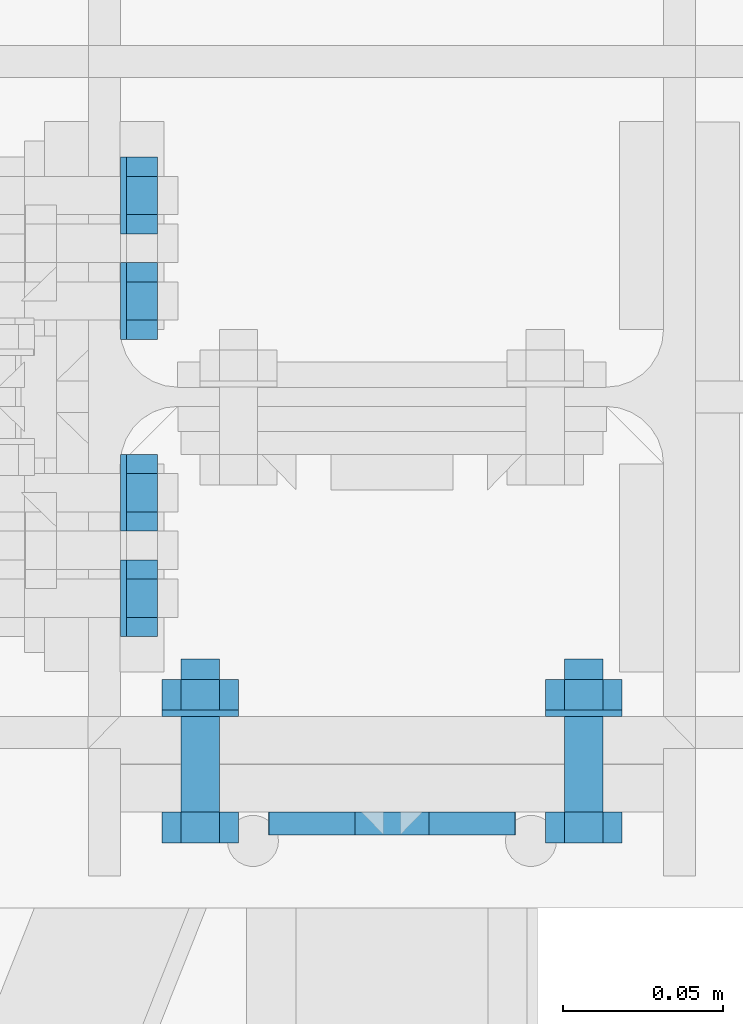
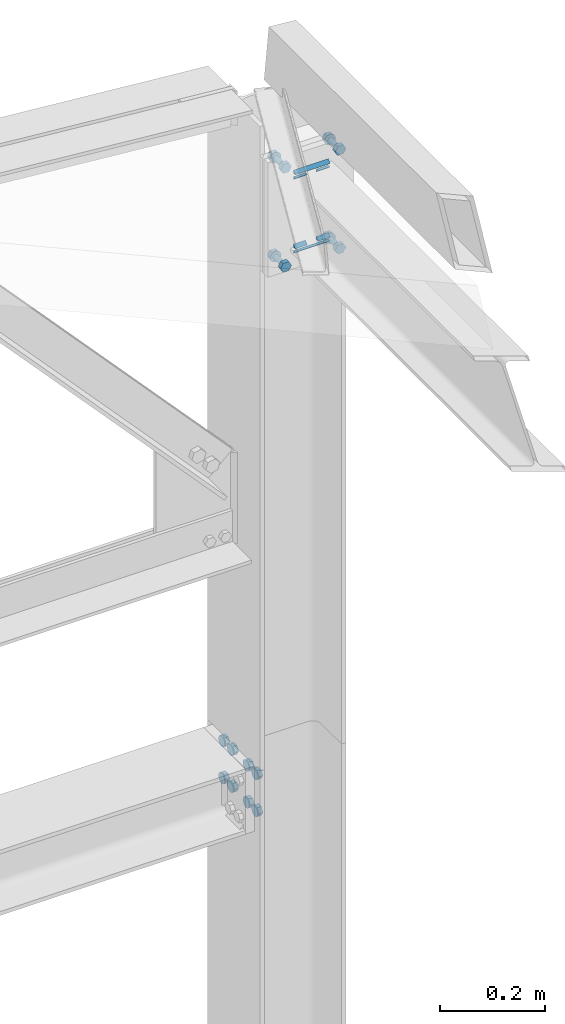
# One storey, part 228 of 251: 32 mechanical fasteners, 12 fasteners.
"""IFC4 building model written with IfcOpenShell, lengths in metres."""

import ifcopenshell
import ifcopenshell.guid

model = None  # the IFC model being written
_history = None  # IfcOwnerHistory: only IFC2X3 demands one
_inside = {}  # id of a spatial element -> (the spatial element, [elements in it])
_under = {}  # id of a project, library or spatial element -> (it, [spatial elements below it])
_declared = {}  # id of a project -> (the project, [libraries it declares])
_typed = {}  # id of a type object -> (the type object, [elements of that type])
_made_of = {}  # id of a material, layer set ... -> (it, [elements and type objects made of it])


def new_model(schema):
    """Start an empty IFC model of exactly this schema.

    Asked for "IFC4X3", IfcOpenShell would pick the latest addendum, in which some entities
    have other attributes; the version numbers below select the first issue.
    IFC2X3 requires an IfcOwnerHistory on every rooted entity: one is made here for all.
    """
    global model, _history
    if schema == "IFC4X3":
        model = ifcopenshell.file(schema_version=(4, 3, 0, 0))
    else:
        model = ifcopenshell.file(schema=schema)
    _inside.clear()
    _under.clear()
    _declared.clear()
    _typed.clear()
    _made_of.clear()
    _history = None
    if model.schema == "IFC2X3":
        org = make("IfcOrganization", Name="unknown")
        user = make(
            "IfcPersonAndOrganization",
            ThePerson=make("IfcPerson", FamilyName="unknown"),
            TheOrganization=org,
        )
        app = make(
            "IfcApplication",
            ApplicationDeveloper=org,
            Version="unknown",
            ApplicationFullName="unknown",
            ApplicationIdentifier="unknown",
        )
        _history = make(
            "IfcOwnerHistory",
            OwningUser=user,
            OwningApplication=app,
            ChangeAction="ADDED",
            CreationDate=0,
        )
    return model


def make(cls, **values):
    """One entity of the class cls with the attributes given. An attribute that is None is left unset."""
    return model.create_entity(
        cls, **{name: value for name, value in values.items() if value is not None}
    )


def rooted(cls, **values):
    """An entity with a GlobalId (a new one), such as an element, a storey or a relation."""
    return make(cls, GlobalId=ifcopenshell.guid.new(), OwnerHistory=_history, **values)


def si_unit(unit_type, name, prefix=None):
    """IfcSIUnit, for example si_unit("LENGTHUNIT", "METRE", prefix="MILLI")."""
    return make("IfcSIUnit", UnitType=unit_type, Prefix=prefix, Name=name)


def assignment(units):
    """IfcUnitAssignment: the units of a project."""
    return None if units is None else make("IfcUnitAssignment", Units=units)


def point(xyz):
    """IfcCartesianPoint."""
    return None if xyz is None else make("IfcCartesianPoint", Coordinates=xyz)


def direction(xyz):
    """IfcDirection."""
    return None if xyz is None else make("IfcDirection", DirectionRatios=xyz)


def frame(location, z_axis=None, x_axis=None):
    """IfcAxis2Placement3D, a coordinate frame: its origin and axes. An axis left out is left unset."""
    return make(
        "IfcAxis2Placement3D",
        Location=point(location),
        Axis=direction(z_axis),
        RefDirection=direction(x_axis),
    )


def origin_with_axes():
    """The frame at (0, 0, 0) with the z axis (0, 0, 1) and the x axis (1, 0, 0) written out."""
    return frame((0.0, 0.0, 0.0), z_axis=(0.0, 0.0, 1.0), x_axis=(1.0, 0.0, 0.0))


def place(relative_to, where):
    """IfcLocalPlacement: puts the frame where relative to a parent placement (None: the world)."""
    return make(
        "IfcLocalPlacement", PlacementRelTo=relative_to, RelativePlacement=where
    )


def context(
    kind, dimensions, precision=None, world=None, true_north=None, identifier=None
):
    """IfcGeometricRepresentationContext, for example the 3D "Model" context."""
    return make(
        "IfcGeometricRepresentationContext",
        ContextIdentifier=identifier,
        ContextType=kind,
        CoordinateSpaceDimension=dimensions,
        Precision=precision,
        WorldCoordinateSystem=world,
        TrueNorth=true_north,
    )


def project(units=None, contexts=None):
    """IfcProject with its units and contexts."""
    return rooted(
        "IfcProject",
        Name="project",
        RepresentationContexts=contexts,
        UnitsInContext=assignment(units),
    )


def spatial(cls, under=None, at=None, **own):
    """A site, building, storey or space (cls), placed at a placement, below another one or the project."""
    s = rooted(cls, ObjectPlacement=at, **own)
    if under is not None:
        _under.setdefault(under.id(), (under, []))[1].append(s)
    return s


def polyline(points):
    """IfcPolyline through the points."""
    return make("IfcPolyline", Points=[point(p) for p in points])


def outline(outer, holes=None, kind="AREA"):
    """IfcArbitraryClosedProfileDef: a profile drawn as a closed curve; with holes, ...WithVoids."""
    if holes is None:
        return make("IfcArbitraryClosedProfileDef", ProfileType=kind, OuterCurve=outer)
    return make(
        "IfcArbitraryProfileDefWithVoids",
        ProfileType=kind,
        OuterCurve=outer,
        InnerCurves=holes,
    )


def extrude(swept, where, along, depth):
    """IfcExtrudedAreaSolid: the profile swept, set in the frame where, extruded along a direction by depth."""
    return make(
        "IfcExtrudedAreaSolid",
        SweptArea=swept,
        Position=where,
        ExtrudedDirection=direction(along),
        Depth=depth,
    )


def shape(context_of_items, identifier, shape_type, items):
    """IfcShapeRepresentation: the items that make up one representation, for example the "Body"."""
    return make(
        "IfcShapeRepresentation",
        ContextOfItems=context_of_items,
        RepresentationIdentifier=identifier,
        RepresentationType=shape_type,
        Items=items,
    )


def made_of(thing, what):
    """Note that an element or type object is made of a material, layer set ...; save() writes the relation."""
    if what is not None:
        _made_of.setdefault(what.id(), (what, []))[1].append(thing)
    return thing


def type_object(cls, material=None, **own):
    """A type object (cls), such as IfcWallType, which elements share."""
    return made_of(rooted(cls, **own), material)


def element(
    cls,
    number,
    at=None,
    inside=None,
    cuts=None,
    type_object=None,
    material=None,
    context=None,
    identifier="Body",
    shape_type=None,
    held_by="IfcProductDefinitionShape",
    body=None,
    shapes=None,
    **own,
):
    """One element of the class cls, such as IfcWall. Its Tag is "e" and its number.

    at: its placement. inside: the storey or other place that contains it. cuts: it is an
    opening in that element (IfcRelVoidsElement). A single representation is given by context,
    identifier, shape_type and body (its items); several are given by shapes. held_by: the class
    of the entity that holds the representations. save() writes the other relations.
    """
    e = rooted(cls, Tag="e%d" % number, ObjectPlacement=at, **own)
    if body is not None:
        shapes = [shape(context, identifier, shape_type, body)]
    if shapes is not None:
        e.Representation = make(held_by, Representations=shapes)
    if inside is not None:
        _inside.setdefault(inside.id(), (inside, []))[1].append(e)
    if cuts is not None:
        rooted(
            "IfcRelVoidsElement", RelatingBuildingElement=cuts, RelatedOpeningElement=e
        )
    if type_object is not None:
        _typed.setdefault(type_object.id(), (type_object, []))[1].append(e)
    return made_of(e, material)


def aggregate(whole, parts):
    """IfcRelAggregates: a whole, such as a stair, and the parts it consists of."""
    return rooted("IfcRelAggregates", RelatingObject=whole, RelatedObjects=parts)


def save(model, path):
    """Write the relations noted so far, then the file.

    IfcRelAggregates (storeys below a building ...), IfcRelContainedInSpatialStructure (elements
    in a storey), IfcRelDefinesByType, IfcRelAssociatesMaterial and IfcRelDeclares: one each for
    every whole, place, type object, material and project.
    """
    for whole, parts in _under.values():
        aggregate(whole, parts)
    for where, things in _inside.values():
        rooted(
            "IfcRelContainedInSpatialStructure",
            RelatedElements=things,
            RelatingStructure=where,
        )
    for kind, things in _typed.values():
        rooted("IfcRelDefinesByType", RelatedObjects=things, RelatingType=kind)
    for what, things in _made_of.values():
        rooted("IfcRelAssociatesMaterial", RelatedObjects=things, RelatingMaterial=what)
    for by, libraries in _declared.values():
        rooted("IfcRelDeclares", RelatingContext=by, RelatedDefinitions=libraries)
    model.write(path)


model = new_model("IFC4")

# Units and contexts
model_context = context("Model", 3, precision=1e-05, world=origin_with_axes())
ifc_project = project(units=[si_unit("LENGTHUNIT", "METRE"), si_unit("AREAUNIT", "SQUARE_METRE"), si_unit("VOLUMEUNIT", "CUBIC_METRE"), si_unit("MASSUNIT", "GRAM", prefix="KILO"), si_unit("TIMEUNIT", "SECOND"), si_unit("PLANEANGLEUNIT", "RADIAN"), si_unit("SOLIDANGLEUNIT", "STERADIAN"), si_unit("THERMODYNAMICTEMPERATUREUNIT", "DEGREE_CELSIUS")], contexts=[model_context])

# Site, building, storey
placement_1 = place(None, origin_with_axes())
site = spatial("IfcSite", under=ifc_project, at=placement_1, Name="Italia", CompositionType="ELEMENT")
building = spatial("IfcBuilding", under=site, at=placement_1, Name="Deposito", CompositionType="ELEMENT")
storey = spatial("IfcBuildingStorey", under=building, at=placement_1, Name="Storey 0", CompositionType="ELEMENT", Elevation=0.0)

# Mechanical fasteners
mechanical_fastener_type_1 = type_object("IfcMechanicalFastenerType", Name="Collegamenti -051_7075 -053_7076", PredefinedType="BOLT")
placement_2 = place(placement_1, origin_with_axes())
mechanical_fastener_1_placement = place(placement_2, origin_with_axes())
element("IfcMechanicalFastener", 1, at=mechanical_fastener_1_placement, inside=storey, type_object=mechanical_fastener_type_1, Name="Collegamenti -051_7075 -053_7076", NominalDiameter=0.0119992, context=model_context, shape_type="SweptSolid", body=[
    extrude(outline(polyline([(0.0, 0.0), (-0.012001, 0.0), (-0.0180016, 0.0103922), (-0.012001, 0.0207849), (0.0, 0.0207849), (0.00599861, 0.0103922), (0.0, 0.0)])), frame((19.9266, 20.057, 4.37061), z_axis=(-1.0, 0.0, 0.0), x_axis=(0.0, -1.0, 0.0)), (0.0, 0.0, 1.0), 0.00959969),
])
mechanical_fastener_type_2 = type_object("IfcMechanicalFastenerType", Name="Collegamenti -051_7075 -053_7076", PredefinedType="BOLT")
mechanical_fastener_2_placement = place(placement_2, origin_with_axes())
element("IfcMechanicalFastener", 2, at=mechanical_fastener_2_placement, inside=storey, type_object=mechanical_fastener_type_2, Name="Collegamenti -051_7075 -053_7076", NominalDiameter=0.024, context=model_context, shape_type="SweptSolid", body=[
    extrude(outline(polyline([(0.0, 0.0), (-0.000408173, -0.00310564), (-0.00160599, -0.00600004), (-0.00351334, -0.00848532), (-0.00599861, -0.0103922), (-0.00889397, -0.011591), (-0.0119991, -0.0120001), (-0.0151043, -0.011591), (-0.0179996, -0.0103922), (-0.0204849, -0.00848532), (-0.0223923, -0.00600004), (-0.0235901, -0.00310564), (-0.0239983, 0.0), (-0.0235901, 0.00310564), (-0.0223923, 0.00600004), (-0.0204849, 0.00848532), (-0.0179996, 0.0103922), (-0.0151043, 0.011591), (-0.0119991, 0.0120001), (-0.00889397, 0.011591), (-0.00599861, 0.0103922), (-0.00351334, 0.00848532), (-0.00160599, 0.00600004), (-0.000408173, 0.00310564), (0.0, 0.0)])), frame((19.917, 20.051, 4.381), z_axis=(-1.0, 0.0, 0.0), x_axis=(0.0, -1.0, 0.0)), (0.0, 0.0, 1.0), 0.0019989),
])
mechanical_fastener_type_3 = type_object("IfcMechanicalFastenerType", Name="Collegamenti -051_7075 -053_7076", PredefinedType="BOLT")
mechanical_fastener_3_placement = place(placement_2, origin_with_axes())
element("IfcMechanicalFastener", 3, at=mechanical_fastener_3_placement, inside=storey, type_object=mechanical_fastener_type_3, Name="Collegamenti -051_7075 -053_7076", NominalDiameter=0.0119991, context=model_context, shape_type="SweptSolid", body=[
    extrude(outline(polyline([(0.0, 0.0), (-0.0119991, 0.0), (-0.0179996, 0.0103922), (-0.0119991, 0.0207849), (0.0, 0.0207849), (0.00600052, 0.0103922), (0.0, 0.0)])), frame((19.9266, 20.024, 4.37061), z_axis=(-1.0, 0.0, 0.0), x_axis=(0.0, -1.0, 0.0)), (0.0, 0.0, 1.0), 0.00959969),
])
mechanical_fastener_type_4 = type_object("IfcMechanicalFastenerType", Name="Collegamenti -051_7075 -053_7076", PredefinedType="BOLT")
mechanical_fastener_4_placement = place(placement_2, origin_with_axes())
element("IfcMechanicalFastener", 4, at=mechanical_fastener_4_placement, inside=storey, type_object=mechanical_fastener_type_4, Name="Collegamenti -051_7075 -053_7076", NominalDiameter=0.024, context=model_context, shape_type="SweptSolid", body=[
    extrude(outline(polyline([(0.0, 0.0), (-0.000408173, -0.00310564), (-0.00160599, -0.00600004), (-0.00351334, -0.00848532), (-0.00599861, -0.0103922), (-0.00889397, -0.011591), (-0.0119991, -0.0120001), (-0.0151043, -0.011591), (-0.0179996, -0.0103922), (-0.0204849, -0.00848532), (-0.0223923, -0.00600004), (-0.0235901, -0.00310564), (-0.0239983, 0.0), (-0.0235901, 0.00310564), (-0.0223923, 0.00600004), (-0.0204849, 0.00848532), (-0.0179996, 0.0103922), (-0.0151043, 0.011591), (-0.0119991, 0.0120001), (-0.00889397, 0.011591), (-0.00599861, 0.0103922), (-0.00351334, 0.00848532), (-0.00160599, 0.00600004), (-0.000408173, 0.00310564), (0.0, 0.0)])), frame((19.917, 20.018, 4.381), z_axis=(-1.0, 0.0, 0.0), x_axis=(0.0, -1.0, 0.0)), (0.0, 0.0, 1.0), 0.0019989),
])
mechanical_fastener_type_5 = type_object("IfcMechanicalFastenerType", Name="Collegamenti -051_7075 -053_7076", PredefinedType="BOLT")
mechanical_fastener_5_placement = place(placement_2, origin_with_axes())
element("IfcMechanicalFastener", 5, at=mechanical_fastener_5_placement, inside=storey, type_object=mechanical_fastener_type_5, Name="Collegamenti -051_7075 -053_7076", NominalDiameter=0.0119991, context=model_context, shape_type="SweptSolid", body=[
    extrude(outline(polyline([(0.0, 0.0), (-0.0119991, 0.0), (-0.0179996, 0.0103922), (-0.0119991, 0.0207849), (0.0, 0.0207849), (0.00600052, 0.0103922), (0.0, 0.0)])), frame((19.9266, 19.964, 4.37061), z_axis=(-1.0, 0.0, 0.0), x_axis=(0.0, -1.0, 0.0)), (0.0, 0.0, 1.0), 0.00959969),
])
mechanical_fastener_type_6 = type_object("IfcMechanicalFastenerType", Name="Collegamenti -051_7075 -053_7076", PredefinedType="BOLT")
mechanical_fastener_6_placement = place(placement_2, origin_with_axes())
element("IfcMechanicalFastener", 6, at=mechanical_fastener_6_placement, inside=storey, type_object=mechanical_fastener_type_6, Name="Collegamenti -051_7075 -053_7076", NominalDiameter=0.024, context=model_context, shape_type="SweptSolid", body=[
    extrude(outline(polyline([(0.0, 0.0), (-0.000408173, -0.00310564), (-0.00160599, -0.00600004), (-0.00351334, -0.00848532), (-0.00599861, -0.0103922), (-0.00889397, -0.011591), (-0.0119991, -0.0120001), (-0.0151043, -0.011591), (-0.0179996, -0.0103922), (-0.0204849, -0.00848532), (-0.0223923, -0.00600004), (-0.0235901, -0.00310564), (-0.0239983, 0.0), (-0.0235901, 0.00310564), (-0.0223923, 0.00600004), (-0.0204849, 0.00848532), (-0.0179996, 0.0103922), (-0.0151043, 0.011591), (-0.0119991, 0.0120001), (-0.00889397, 0.011591), (-0.00599861, 0.0103922), (-0.00351334, 0.00848532), (-0.00160599, 0.00600004), (-0.000408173, 0.00310564), (0.0, 0.0)])), frame((19.917, 19.958, 4.381), z_axis=(-1.0, 0.0, 0.0), x_axis=(0.0, -1.0, 0.0)), (0.0, 0.0, 1.0), 0.0019989),
])
mechanical_fastener_type_7 = type_object("IfcMechanicalFastenerType", Name="Collegamenti -051_7075 -053_7076", PredefinedType="BOLT")
mechanical_fastener_7_placement = place(placement_2, origin_with_axes())
element("IfcMechanicalFastener", 7, at=mechanical_fastener_7_placement, inside=storey, type_object=mechanical_fastener_type_7, Name="Collegamenti -051_7075 -053_7076", NominalDiameter=0.0119992, context=model_context, shape_type="SweptSolid", body=[
    extrude(outline(polyline([(0.0, 0.0), (-0.012001, 0.0), (-0.0179996, 0.0103922), (-0.012001, 0.0207849), (0.0, 0.0207849), (0.00600052, 0.0103922), (0.0, 0.0)])), frame((19.9266, 19.931, 4.37061), z_axis=(-1.0, 0.0, 0.0), x_axis=(0.0, -1.0, 0.0)), (0.0, 0.0, 1.0), 0.00959969),
])
mechanical_fastener_type_8 = type_object("IfcMechanicalFastenerType", Name="Collegamenti -051_7075 -053_7076", PredefinedType="BOLT")
mechanical_fastener_8_placement = place(placement_2, origin_with_axes())
element("IfcMechanicalFastener", 8, at=mechanical_fastener_8_placement, inside=storey, type_object=mechanical_fastener_type_8, Name="Collegamenti -051_7075 -053_7076", NominalDiameter=0.024, context=model_context, shape_type="SweptSolid", body=[
    extrude(outline(polyline([(0.0, 0.0), (-0.000408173, -0.00310564), (-0.00160599, -0.00600004), (-0.00351334, -0.00848532), (-0.00599861, -0.0103922), (-0.00889397, -0.011591), (-0.0119991, -0.0120001), (-0.0151043, -0.011591), (-0.0179996, -0.0103922), (-0.0204849, -0.00848532), (-0.0223923, -0.00600004), (-0.0235901, -0.00310564), (-0.0239983, 0.0), (-0.0235901, 0.00310564), (-0.0223923, 0.00600004), (-0.0204849, 0.00848532), (-0.0179996, 0.0103922), (-0.0151043, 0.011591), (-0.0119991, 0.0120001), (-0.00889397, 0.011591), (-0.00599861, 0.0103922), (-0.00351334, 0.00848532), (-0.00160599, 0.00600004), (-0.000408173, 0.00310564), (0.0, 0.0)])), frame((19.917, 19.925, 4.381), z_axis=(-1.0, 0.0, 0.0), x_axis=(0.0, -1.0, 0.0)), (0.0, 0.0, 1.0), 0.0019989),
])
mechanical_fastener_type_9 = type_object("IfcMechanicalFastenerType", Name="Collegamenti -051_7075 -053_7076", PredefinedType="BOLT")
mechanical_fastener_9_placement = place(placement_2, origin_with_axes())
element("IfcMechanicalFastener", 9, at=mechanical_fastener_9_placement, inside=storey, type_object=mechanical_fastener_type_9, Name="Collegamenti -051_7075 -053_7076", NominalDiameter=0.0119992, context=model_context, shape_type="SweptSolid", body=[
    extrude(outline(polyline([(0.0, 0.0), (-0.012001, 0.0), (-0.0180016, 0.0103927), (-0.012001, 0.0207849), (0.0, 0.0207849), (0.00599861, 0.0103927), (0.0, 0.0)])), frame((19.9266, 20.057, 4.45661), z_axis=(-1.0, 0.0, 0.0), x_axis=(0.0, -1.0, 0.0)), (0.0, 0.0, 1.0), 0.00959969),
])
mechanical_fastener_type_10 = type_object("IfcMechanicalFastenerType", Name="Collegamenti -051_7075 -053_7076", PredefinedType="BOLT")
mechanical_fastener_10_placement = place(placement_2, origin_with_axes())
element("IfcMechanicalFastener", 10, at=mechanical_fastener_10_placement, inside=storey, type_object=mechanical_fastener_type_10, Name="Collegamenti -051_7075 -053_7076", NominalDiameter=0.024, context=model_context, shape_type="SweptSolid", body=[
    extrude(outline(polyline([(0.0, 0.0), (-0.000408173, -0.00310564), (-0.00160599, -0.00600004), (-0.00351334, -0.00848532), (-0.00599861, -0.0103922), (-0.00889397, -0.011591), (-0.0119991, -0.0120001), (-0.0151043, -0.011591), (-0.0179996, -0.0103922), (-0.0204849, -0.00848532), (-0.0223923, -0.00600004), (-0.0235901, -0.00310564), (-0.0239983, 0.0), (-0.0235901, 0.00310564), (-0.0223923, 0.00600004), (-0.0204849, 0.00848532), (-0.0179996, 0.0103922), (-0.0151043, 0.011591), (-0.0119991, 0.0120001), (-0.00889397, 0.011591), (-0.00599861, 0.0103922), (-0.00351334, 0.00848532), (-0.00160599, 0.00600004), (-0.000408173, 0.00310564), (0.0, 0.0)])), frame((19.917, 20.051, 4.467), z_axis=(-1.0, 0.0, 0.0), x_axis=(0.0, -1.0, 0.0)), (0.0, 0.0, 1.0), 0.0019989),
])
mechanical_fastener_type_11 = type_object("IfcMechanicalFastenerType", Name="Collegamenti -051_7075 -053_7076", PredefinedType="BOLT")
mechanical_fastener_11_placement = place(placement_2, origin_with_axes())
element("IfcMechanicalFastener", 11, at=mechanical_fastener_11_placement, inside=storey, type_object=mechanical_fastener_type_11, Name="Collegamenti -051_7075 -053_7076", NominalDiameter=0.0119991, context=model_context, shape_type="SweptSolid", body=[
    extrude(outline(polyline([(0.0, 0.0), (-0.0119991, 0.0), (-0.0179996, 0.0103927), (-0.0119991, 0.0207849), (0.0, 0.0207849), (0.00600052, 0.0103927), (0.0, 0.0)])), frame((19.9266, 20.024, 4.45661), z_axis=(-1.0, 0.0, 0.0), x_axis=(0.0, -1.0, 0.0)), (0.0, 0.0, 1.0), 0.00959969),
])
mechanical_fastener_type_12 = type_object("IfcMechanicalFastenerType", Name="Collegamenti -051_7075 -053_7076", PredefinedType="BOLT")
mechanical_fastener_12_placement = place(placement_2, origin_with_axes())
element("IfcMechanicalFastener", 12, at=mechanical_fastener_12_placement, inside=storey, type_object=mechanical_fastener_type_12, Name="Collegamenti -051_7075 -053_7076", NominalDiameter=0.024, context=model_context, shape_type="SweptSolid", body=[
    extrude(outline(polyline([(0.0, 0.0), (-0.000408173, -0.00310564), (-0.00160599, -0.00600004), (-0.00351334, -0.00848532), (-0.00599861, -0.0103922), (-0.00889397, -0.011591), (-0.0119991, -0.0120001), (-0.0151043, -0.011591), (-0.0179996, -0.0103922), (-0.0204849, -0.00848532), (-0.0223923, -0.00600004), (-0.0235901, -0.00310564), (-0.0239983, 0.0), (-0.0235901, 0.00310564), (-0.0223923, 0.00600004), (-0.0204849, 0.00848532), (-0.0179996, 0.0103922), (-0.0151043, 0.011591), (-0.0119991, 0.0120001), (-0.00889397, 0.011591), (-0.00599861, 0.0103922), (-0.00351334, 0.00848532), (-0.00160599, 0.00600004), (-0.000408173, 0.00310564), (0.0, 0.0)])), frame((19.917, 20.018, 4.467), z_axis=(-1.0, 0.0, 0.0), x_axis=(0.0, -1.0, 0.0)), (0.0, 0.0, 1.0), 0.0019989),
])
mechanical_fastener_type_13 = type_object("IfcMechanicalFastenerType", Name="Collegamenti -051_7075 -053_7076", PredefinedType="BOLT")
mechanical_fastener_13_placement = place(placement_2, origin_with_axes())
element("IfcMechanicalFastener", 13, at=mechanical_fastener_13_placement, inside=storey, type_object=mechanical_fastener_type_13, Name="Collegamenti -051_7075 -053_7076", NominalDiameter=0.0119991, context=model_context, shape_type="SweptSolid", body=[
    extrude(outline(polyline([(0.0, 0.0), (-0.0119991, 0.0), (-0.0179996, 0.0103927), (-0.0119991, 0.0207849), (0.0, 0.0207849), (0.00600052, 0.0103927), (0.0, 0.0)])), frame((19.9266, 19.964, 4.45661), z_axis=(-1.0, 0.0, 0.0), x_axis=(0.0, -1.0, 0.0)), (0.0, 0.0, 1.0), 0.00959969),
])
mechanical_fastener_type_14 = type_object("IfcMechanicalFastenerType", Name="Collegamenti -051_7075 -053_7076", PredefinedType="BOLT")
mechanical_fastener_14_placement = place(placement_2, origin_with_axes())
element("IfcMechanicalFastener", 14, at=mechanical_fastener_14_placement, inside=storey, type_object=mechanical_fastener_type_14, Name="Collegamenti -051_7075 -053_7076", NominalDiameter=0.024, context=model_context, shape_type="SweptSolid", body=[
    extrude(outline(polyline([(0.0, 0.0), (-0.000408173, -0.00310564), (-0.00160599, -0.00600004), (-0.00351334, -0.00848532), (-0.00599861, -0.0103922), (-0.00889397, -0.011591), (-0.0119991, -0.0120001), (-0.0151043, -0.011591), (-0.0179996, -0.0103922), (-0.0204849, -0.00848532), (-0.0223923, -0.00600004), (-0.0235901, -0.00310564), (-0.0239983, 0.0), (-0.0235901, 0.00310564), (-0.0223923, 0.00600004), (-0.0204849, 0.00848532), (-0.0179996, 0.0103922), (-0.0151043, 0.011591), (-0.0119991, 0.0120001), (-0.00889397, 0.011591), (-0.00599861, 0.0103922), (-0.00351334, 0.00848532), (-0.00160599, 0.00600004), (-0.000408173, 0.00310564), (0.0, 0.0)])), frame((19.917, 19.958, 4.467), z_axis=(-1.0, 0.0, 0.0), x_axis=(0.0, -1.0, 0.0)), (0.0, 0.0, 1.0), 0.0019989),
])
mechanical_fastener_type_15 = type_object("IfcMechanicalFastenerType", Name="Collegamenti -051_7075 -053_7076", PredefinedType="BOLT")
mechanical_fastener_15_placement = place(placement_2, origin_with_axes())
element("IfcMechanicalFastener", 15, at=mechanical_fastener_15_placement, inside=storey, type_object=mechanical_fastener_type_15, Name="Collegamenti -051_7075 -053_7076", NominalDiameter=0.0119992, context=model_context, shape_type="SweptSolid", body=[
    extrude(outline(polyline([(0.0, 0.0), (-0.012001, 0.0), (-0.0179996, 0.0103927), (-0.012001, 0.0207849), (0.0, 0.0207849), (0.00600052, 0.0103927), (0.0, 0.0)])), frame((19.9266, 19.931, 4.45661), z_axis=(-1.0, 0.0, 0.0), x_axis=(0.0, -1.0, 0.0)), (0.0, 0.0, 1.0), 0.00959969),
])
mechanical_fastener_type_16 = type_object("IfcMechanicalFastenerType", Name="Collegamenti -051_7075 -053_7076", PredefinedType="BOLT")
mechanical_fastener_16_placement = place(placement_2, origin_with_axes())
element("IfcMechanicalFastener", 16, at=mechanical_fastener_16_placement, inside=storey, type_object=mechanical_fastener_type_16, Name="Collegamenti -051_7075 -053_7076", NominalDiameter=0.024, context=model_context, shape_type="SweptSolid", body=[
    extrude(outline(polyline([(0.0, 0.0), (-0.000408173, -0.00310564), (-0.00160599, -0.00600004), (-0.00351334, -0.00848532), (-0.00599861, -0.0103922), (-0.00889397, -0.011591), (-0.0119991, -0.0120001), (-0.0151043, -0.011591), (-0.0179996, -0.0103922), (-0.0204849, -0.00848532), (-0.0223923, -0.00600004), (-0.0235901, -0.00310564), (-0.0239983, 0.0), (-0.0235901, 0.00310564), (-0.0223923, 0.00600004), (-0.0204849, 0.00848532), (-0.0179996, 0.0103922), (-0.0151043, 0.011591), (-0.0119991, 0.0120001), (-0.00889397, 0.011591), (-0.00599861, 0.0103922), (-0.00351334, 0.00848532), (-0.00160599, 0.00600004), (-0.000408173, 0.00310564), (0.0, 0.0)])), frame((19.917, 19.925, 4.467), z_axis=(-1.0, 0.0, 0.0), x_axis=(0.0, -1.0, 0.0)), (0.0, 0.0, 1.0), 0.0019989),
])

# Fasteners
fastener_type_1 = type_object("IfcFastenerType", Name="Collegamenti -064_-065 -065_-064 -065_-066 -066_-065 -066_-067 -067_-066 -067_-068 -068_-067", PredefinedType="WELD")
fastener_1_placement = place(placement_2, origin_with_axes())
element("IfcFastener", 17, at=fastener_1_placement, inside=storey, type_object=fastener_type_1, Name="Collegamenti -064_-065 -065_-064 -065_-066 -066_-065 -066_-067 -067_-066 -067_-068 -068_-067", context=model_context, shape_type="SweptSolid", body=[
    extrude(outline(polyline([(0.0, 0.0), (0.00717354, -0.00695801), (0.0, -0.00695801), (0.0, 0.0)])), frame((20.0385, 19.8701, 5.89691), z_axis=(-1.0, 0.0, 0.0), x_axis=(0.0, -1.0, 0.0)), (0.0, 0.0, 1.0), 0.0770988),
])
fastener_type_2 = type_object("IfcFastenerType", Name="Collegamenti -064_-065 -065_-064 -065_-066 -066_-065 -066_-067 -067_-066 -067_-068 -068_-067", PredefinedType="WELD")
fastener_2_placement = place(placement_2, origin_with_axes())
element("IfcFastener", 18, at=fastener_2_placement, inside=storey, type_object=fastener_type_2, Name="Collegamenti -064_-065 -065_-064 -065_-066 -066_-065 -066_-067 -067_-066 -067_-068 -068_-067", context=model_context, shape_type="SweptSolid", body=[
    extrude(outline(polyline([(0.0, 0.0), (-0.00717354, 0.00695801), (0.0, 0.00695801), (0.0, 0.0)])), frame((20.0116, 19.8701, 5.87509), z_axis=(1.0, 0.0, 0.0), x_axis=(0.0, 1.0, 0.0)), (0.0, 0.0, 1.0), 0.0269508),
])
fastener_type_3 = type_object("IfcFastenerType", Name="Collegamenti -064_-065 -065_-064 -065_-066 -066_-065 -066_-067 -067_-066 -067_-068 -068_-067", PredefinedType="WELD")
fastener_3_placement = place(placement_2, origin_with_axes())
element("IfcFastener", 19, at=fastener_3_placement, inside=storey, type_object=fastener_type_3, Name="Collegamenti -064_-065 -065_-064 -065_-066 -066_-065 -066_-067 -067_-066 -067_-068 -068_-067", context=model_context, shape_type="SweptSolid", body=[
    extrude(outline(polyline([(0.0, 0.0), (0.00717354, -0.00695801), (0.0, -0.00695801), (0.0, 0.0)])), frame((20.0385, 19.8701, 5.72491), z_axis=(-1.0, 0.0, 0.0), x_axis=(0.0, -1.0, 0.0)), (0.0, 0.0, 1.0), 0.0269508),
])
fastener_type_4 = type_object("IfcFastenerType", Name="Collegamenti -064_-065 -065_-064 -065_-066 -066_-065 -066_-067 -067_-066 -067_-068 -068_-067", PredefinedType="WELD")
fastener_4_placement = place(placement_2, origin_with_axes())
element("IfcFastener", 20, at=fastener_4_placement, inside=storey, type_object=fastener_type_4, Name="Collegamenti -064_-065 -065_-064 -065_-066 -066_-065 -066_-067 -067_-066 -067_-068 -068_-067", context=model_context, shape_type="SweptSolid", body=[
    extrude(outline(polyline([(0.0, 0.0), (-0.00717354, 0.00695801), (0.0, 0.00695801), (0.0, 0.0)])), frame((19.9615, 19.8701, 5.70309), z_axis=(1.0, 0.0, 0.0), x_axis=(0.0, 1.0, 0.0)), (0.0, 0.0, 1.0), 0.0770988),
])
fastener_type_5 = type_object("IfcFastenerType", Name="Collegamenti -064_-065 -065_-064 -065_-066 -066_-065 -066_-067 -067_-066 -067_-068 -068_-067", PredefinedType="WELD")
fastener_5_placement = place(placement_2, origin_with_axes())
element("IfcFastener", 21, at=fastener_5_placement, inside=storey, type_object=fastener_type_5, Name="Collegamenti -064_-065 -065_-064 -065_-066 -066_-065 -066_-067 -067_-066 -067_-068 -068_-067", context=model_context, shape_type="SweptSolid", body=[
    extrude(outline(polyline([(0.0, 0.0), (0.00717354, -0.00695801), (0.0, -0.00695801), (0.0, 0.0)])), frame((19.9884, 19.8701, 5.72491), z_axis=(-1.0, 0.0, 0.0), x_axis=(0.0, -1.0, 0.0)), (0.0, 0.0, 1.0), 0.0269508),
])
fastener_type_6 = type_object("IfcFastenerType", Name="Collegamenti -064_-065 -065_-064 -065_-066 -066_-065 -066_-067 -067_-066 -067_-068 -068_-067", PredefinedType="WELD")
fastener_6_placement = place(placement_2, origin_with_axes())
element("IfcFastener", 22, at=fastener_6_placement, inside=storey, type_object=fastener_type_6, Name="Collegamenti -064_-065 -065_-064 -065_-066 -066_-065 -066_-067 -067_-066 -067_-068 -068_-067", context=model_context, shape_type="SweptSolid", body=[
    extrude(outline(polyline([(0.0, 0.0), (-0.00717354, 0.00695801), (0.0, 0.00695801), (0.0, 0.0)])), frame((19.9615, 19.8701, 5.87509), z_axis=(1.0, 0.0, 0.0), x_axis=(0.0, 1.0, 0.0)), (0.0, 0.0, 1.0), 0.0269508),
])
fastener_type_7 = type_object("IfcFastenerType", Name="Collegamenti -064_-065 -065_-064 -065_-066 -066_-065 -066_-067 -067_-066 -067_-068 -068_-067", PredefinedType="WELD")
fastener_7_placement = place(placement_2, origin_with_axes())
element("IfcFastener", 23, at=fastener_7_placement, inside=storey, type_object=fastener_type_7, Name="Collegamenti -064_-065 -065_-064 -065_-066 -066_-065 -066_-067 -067_-066 -067_-068 -068_-067", context=model_context, shape_type="SweptSolid", body=[
    extrude(outline(polyline([(0.0, 0.0), (0.00717354, -0.00695801), (0.0, -0.00695801), (0.0, 0.0)])), frame((20.0385, 19.8701, 5.89691), z_axis=(-1.0, 0.0, 0.0), x_axis=(0.0, -1.0, 0.0)), (0.0, 0.0, 1.0), 0.0770988),
])
fastener_type_8 = type_object("IfcFastenerType", Name="Collegamenti -064_-065 -065_-064 -065_-066 -066_-065 -066_-067 -067_-066 -067_-068 -068_-067", PredefinedType="WELD")
fastener_8_placement = place(placement_2, origin_with_axes())
element("IfcFastener", 24, at=fastener_8_placement, inside=storey, type_object=fastener_type_8, Name="Collegamenti -064_-065 -065_-064 -065_-066 -066_-065 -066_-067 -067_-066 -067_-068 -068_-067", context=model_context, shape_type="SweptSolid", body=[
    extrude(outline(polyline([(0.0, 0.0), (-0.00717354, 0.00695801), (0.0, 0.00695801), (0.0, 0.0)])), frame((20.0116, 19.8701, 5.87509), z_axis=(1.0, 0.0, 0.0), x_axis=(0.0, 1.0, 0.0)), (0.0, 0.0, 1.0), 0.0269508),
])
fastener_type_9 = type_object("IfcFastenerType", Name="Collegamenti -064_-065 -065_-064 -065_-066 -066_-065 -066_-067 -067_-066 -067_-068 -068_-067", PredefinedType="WELD")
fastener_9_placement = place(placement_2, origin_with_axes())
element("IfcFastener", 25, at=fastener_9_placement, inside=storey, type_object=fastener_type_9, Name="Collegamenti -064_-065 -065_-064 -065_-066 -066_-065 -066_-067 -067_-066 -067_-068 -068_-067", context=model_context, shape_type="SweptSolid", body=[
    extrude(outline(polyline([(0.0, 0.0), (0.00717354, -0.00695801), (0.0, -0.00695801), (0.0, 0.0)])), frame((20.0385, 19.8701, 5.72491), z_axis=(-1.0, 0.0, 0.0), x_axis=(0.0, -1.0, 0.0)), (0.0, 0.0, 1.0), 0.0269508),
])
fastener_type_10 = type_object("IfcFastenerType", Name="Collegamenti -064_-065 -065_-064 -065_-066 -066_-065 -066_-067 -067_-066 -067_-068 -068_-067", PredefinedType="WELD")
fastener_10_placement = place(placement_2, origin_with_axes())
element("IfcFastener", 26, at=fastener_10_placement, inside=storey, type_object=fastener_type_10, Name="Collegamenti -064_-065 -065_-064 -065_-066 -066_-065 -066_-067 -067_-066 -067_-068 -068_-067", context=model_context, shape_type="SweptSolid", body=[
    extrude(outline(polyline([(0.0, 0.0), (-0.00717354, 0.00695801), (0.0, 0.00695801), (0.0, 0.0)])), frame((19.9615, 19.8701, 5.70309), z_axis=(1.0, 0.0, 0.0), x_axis=(0.0, 1.0, 0.0)), (0.0, 0.0, 1.0), 0.0770988),
])
fastener_type_11 = type_object("IfcFastenerType", Name="Collegamenti -064_-065 -065_-064 -065_-066 -066_-065 -066_-067 -067_-066 -067_-068 -068_-067", PredefinedType="WELD")
fastener_11_placement = place(placement_2, origin_with_axes())
element("IfcFastener", 27, at=fastener_11_placement, inside=storey, type_object=fastener_type_11, Name="Collegamenti -064_-065 -065_-064 -065_-066 -066_-065 -066_-067 -067_-066 -067_-068 -068_-067", context=model_context, shape_type="SweptSolid", body=[
    extrude(outline(polyline([(0.0, 0.0), (0.00717354, -0.00695801), (0.0, -0.00695801), (0.0, 0.0)])), frame((19.9884, 19.8701, 5.72491), z_axis=(-1.0, 0.0, 0.0), x_axis=(0.0, -1.0, 0.0)), (0.0, 0.0, 1.0), 0.0269508),
])
fastener_type_12 = type_object("IfcFastenerType", Name="Collegamenti -064_-065 -065_-064 -065_-066 -066_-065 -066_-067 -067_-066 -067_-068 -068_-067", PredefinedType="WELD")
fastener_12_placement = place(placement_2, origin_with_axes())
element("IfcFastener", 28, at=fastener_12_placement, inside=storey, type_object=fastener_type_12, Name="Collegamenti -064_-065 -065_-064 -065_-066 -066_-065 -066_-067 -067_-066 -067_-068 -068_-067", context=model_context, shape_type="SweptSolid", body=[
    extrude(outline(polyline([(0.0, 0.0), (-0.00717354, 0.00695801), (0.0, 0.00695801), (0.0, 0.0)])), frame((19.9615, 19.8701, 5.87509), z_axis=(1.0, 0.0, 0.0), x_axis=(0.0, 1.0, 0.0)), (0.0, 0.0, 1.0), 0.0269508),
])

# Mechanical fasteners
mechanical_fastener_type_17 = type_object("IfcMechanicalFastenerType", Name="Collegamenti -064_-065 -065_-064 -065_-066 -066_-065 -066_-067 -067_-066 -067_-068 -068_-067", PredefinedType="BOLT")
mechanical_fastener_17_placement = place(placement_2, origin_with_axes())
element("IfcMechanicalFastener", 29, at=mechanical_fastener_17_placement, inside=storey, type_object=mechanical_fastener_type_17, Name="Collegamenti -064_-065 -065_-064 -065_-066 -066_-065 -066_-067 -067_-066 -067_-068 -068_-067", NominalDiameter=0.0119991, context=model_context, shape_type="SweptSolid", body=[
    extrude(outline(polyline([(0.0, 0.0), (-0.0119991, 0.0), (-0.0179996, 0.0103927), (-0.0119991, 0.0207849), (0.0, 0.0207849), (0.00600052, 0.0103927), (0.0, 0.0)])), frame((19.946, 19.87, 5.67461), z_axis=(0.0, -1.0, 0.0), x_axis=(1.0, 0.0, 0.0)), (0.0, 0.0, 1.0), 0.00960159),
])
mechanical_fastener_type_18 = type_object("IfcMechanicalFastenerType", Name="Collegamenti -064_-065 -065_-064 -065_-066 -066_-065 -066_-067 -067_-066 -067_-068 -068_-067", PredefinedType="BOLT")
mechanical_fastener_18_placement = place(placement_2, origin_with_axes())
element("IfcMechanicalFastener", 30, at=mechanical_fastener_18_placement, inside=storey, type_object=mechanical_fastener_type_18, Name="Collegamenti -064_-065 -065_-064 -065_-066 -066_-065 -066_-067 -067_-066 -067_-068 -068_-067", NominalDiameter=0.012, context=model_context, shape_type="SweptSolid", body=[
    extrude(outline(polyline([(0.0, 0.0), (-0.000204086, -0.00155306), (-0.000804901, -0.00299978), (-0.00175858, -0.00424242), (-0.00300026, -0.00519609), (-0.00444794, -0.00579548), (-0.00600052, -0.00600004), (-0.0075531, -0.00579548), (-0.00900078, -0.00519609), (-0.0102425, -0.00424242), (-0.0111961, -0.00299978), (-0.011797, -0.00155306), (-0.012001, 0.0), (-0.011797, 0.00155306), (-0.0111961, 0.00299978), (-0.0102425, 0.00424242), (-0.00900078, 0.00519609), (-0.0075531, 0.00579548), (-0.00600052, 0.00600004), (-0.00444794, 0.00579548), (-0.00300026, 0.00519609), (-0.00175858, 0.00424242), (-0.000804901, 0.00299978), (-0.000204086, 0.00155306), (0.0, 0.0)])), frame((19.946, 19.918, 5.685), z_axis=(0.0, -1.0, 0.0), x_axis=(1.0, 0.0, 0.0)), (0.0, 0.0, 1.0), 0.0479984),
])
mechanical_fastener_type_19 = type_object("IfcMechanicalFastenerType", Name="Collegamenti -064_-065 -065_-064 -065_-066 -066_-065 -066_-067 -067_-066 -067_-068 -068_-067", PredefinedType="BOLT")
mechanical_fastener_19_placement = place(placement_2, origin_with_axes())
element("IfcMechanicalFastener", 31, at=mechanical_fastener_19_placement, inside=storey, type_object=mechanical_fastener_type_19, Name="Collegamenti -064_-065 -065_-064 -065_-066 -066_-065 -066_-067 -067_-066 -067_-068 -068_-067", NominalDiameter=0.0119991, context=model_context, shape_type="SweptSolid", body=[
    extrude(outline(polyline([(0.0, 0.0), (-0.0119991, 0.0), (-0.0179996, 0.0103927), (-0.0119991, 0.0207849), (0.0, 0.0207849), (0.00600052, 0.0103927), (0.0, 0.0)])), frame((19.946, 19.9116, 5.67461), z_axis=(0.0, -1.0, 0.0), x_axis=(1.0, 0.0, 0.0)), (0.0, 0.0, 1.0), 0.00959969),
])
mechanical_fastener_type_20 = type_object("IfcMechanicalFastenerType", Name="Collegamenti -064_-065 -065_-064 -065_-066 -066_-065 -066_-067 -067_-066 -067_-068 -068_-067", PredefinedType="BOLT")
mechanical_fastener_20_placement = place(placement_2, origin_with_axes())
element("IfcMechanicalFastener", 32, at=mechanical_fastener_20_placement, inside=storey, type_object=mechanical_fastener_type_20, Name="Collegamenti -064_-065 -065_-064 -065_-066 -066_-065 -066_-067 -067_-066 -067_-068 -068_-067", NominalDiameter=0.024, context=model_context, shape_type="SweptSolid", body=[
    extrude(outline(polyline([(0.0, 0.0), (-0.000408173, -0.00310564), (-0.00160599, -0.00600004), (-0.00351334, -0.00848532), (-0.00599861, -0.0103922), (-0.00889397, -0.011591), (-0.0119991, -0.0120001), (-0.0151043, -0.011591), (-0.0179996, -0.0103922), (-0.0204849, -0.00848532), (-0.0223923, -0.00600004), (-0.0235901, -0.00310564), (-0.0239983, 0.0), (-0.0235901, 0.00310564), (-0.0223923, 0.00600004), (-0.0204849, 0.00848532), (-0.0179996, 0.0103922), (-0.0151043, 0.011591), (-0.0119991, 0.0120001), (-0.00889397, 0.011591), (-0.00599861, 0.0103922), (-0.00351334, 0.00848532), (-0.00160599, 0.00600004), (-0.000408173, 0.00310564), (0.0, 0.0)])), frame((19.952, 19.902, 5.685), z_axis=(0.0, -1.0, 0.0), x_axis=(1.0, 0.0, 0.0)), (0.0, 0.0, 1.0), 0.00200081),
])
mechanical_fastener_type_21 = type_object("IfcMechanicalFastenerType", Name="Collegamenti -064_-065 -065_-064 -065_-066 -066_-065 -066_-067 -067_-066 -067_-068 -068_-067", PredefinedType="BOLT")
mechanical_fastener_21_placement = place(placement_2, origin_with_axes())
element("IfcMechanicalFastener", 33, at=mechanical_fastener_21_placement, inside=storey, type_object=mechanical_fastener_type_21, Name="Collegamenti -064_-065 -065_-064 -065_-066 -066_-065 -066_-067 -067_-066 -067_-068 -068_-067", NominalDiameter=0.0119991, context=model_context, shape_type="SweptSolid", body=[
    extrude(outline(polyline([(0.0, 0.0), (-0.0119991, 0.0), (-0.0179996, 0.0103927), (-0.0119991, 0.0207849), (0.0, 0.0207849), (0.00600052, 0.0103927), (0.0, 0.0)])), frame((20.066, 19.87, 5.67461), z_axis=(0.0, -1.0, 0.0), x_axis=(1.0, 0.0, 0.0)), (0.0, 0.0, 1.0), 0.00960159),
])
mechanical_fastener_type_22 = type_object("IfcMechanicalFastenerType", Name="Collegamenti -064_-065 -065_-064 -065_-066 -066_-065 -066_-067 -067_-066 -067_-068 -068_-067", PredefinedType="BOLT")
mechanical_fastener_22_placement = place(placement_2, origin_with_axes())
element("IfcMechanicalFastener", 34, at=mechanical_fastener_22_placement, inside=storey, type_object=mechanical_fastener_type_22, Name="Collegamenti -064_-065 -065_-064 -065_-066 -066_-065 -066_-067 -067_-066 -067_-068 -068_-067", NominalDiameter=0.012, context=model_context, shape_type="SweptSolid", body=[
    extrude(outline(polyline([(0.0, 0.0), (-0.000204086, -0.00155306), (-0.000804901, -0.00299978), (-0.00175858, -0.00424242), (-0.00300026, -0.00519609), (-0.00444794, -0.00579548), (-0.00600052, -0.00600004), (-0.0075531, -0.00579548), (-0.00900078, -0.00519609), (-0.0102425, -0.00424242), (-0.0111961, -0.00299978), (-0.011797, -0.00155306), (-0.012001, 0.0), (-0.011797, 0.00155306), (-0.0111961, 0.00299978), (-0.0102425, 0.00424242), (-0.00900078, 0.00519609), (-0.0075531, 0.00579548), (-0.00600052, 0.00600004), (-0.00444794, 0.00579548), (-0.00300026, 0.00519609), (-0.00175858, 0.00424242), (-0.000804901, 0.00299978), (-0.000204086, 0.00155306), (0.0, 0.0)])), frame((20.066, 19.918, 5.685), z_axis=(0.0, -1.0, 0.0), x_axis=(1.0, 0.0, 0.0)), (0.0, 0.0, 1.0), 0.0479984),
])
mechanical_fastener_type_23 = type_object("IfcMechanicalFastenerType", Name="Collegamenti -064_-065 -065_-064 -065_-066 -066_-065 -066_-067 -067_-066 -067_-068 -068_-067", PredefinedType="BOLT")
mechanical_fastener_23_placement = place(placement_2, origin_with_axes())
element("IfcMechanicalFastener", 35, at=mechanical_fastener_23_placement, inside=storey, type_object=mechanical_fastener_type_23, Name="Collegamenti -064_-065 -065_-064 -065_-066 -066_-065 -066_-067 -067_-066 -067_-068 -068_-067", NominalDiameter=0.0119991, context=model_context, shape_type="SweptSolid", body=[
    extrude(outline(polyline([(0.0, 0.0), (-0.0119991, 0.0), (-0.0179996, 0.0103927), (-0.0119991, 0.0207849), (0.0, 0.0207849), (0.00600052, 0.0103927), (0.0, 0.0)])), frame((20.066, 19.9116, 5.67461), z_axis=(0.0, -1.0, 0.0), x_axis=(1.0, 0.0, 0.0)), (0.0, 0.0, 1.0), 0.00959969),
])
mechanical_fastener_type_24 = type_object("IfcMechanicalFastenerType", Name="Collegamenti -064_-065 -065_-064 -065_-066 -066_-065 -066_-067 -067_-066 -067_-068 -068_-067", PredefinedType="BOLT")
mechanical_fastener_24_placement = place(placement_2, origin_with_axes())
element("IfcMechanicalFastener", 36, at=mechanical_fastener_24_placement, inside=storey, type_object=mechanical_fastener_type_24, Name="Collegamenti -064_-065 -065_-064 -065_-066 -066_-065 -066_-067 -067_-066 -067_-068 -068_-067", NominalDiameter=0.024, context=model_context, shape_type="SweptSolid", body=[
    extrude(outline(polyline([(0.0, 0.0), (-0.000408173, -0.00310564), (-0.00160599, -0.00600004), (-0.00351334, -0.00848532), (-0.00599861, -0.0103922), (-0.00889397, -0.011591), (-0.0119991, -0.0120001), (-0.0151043, -0.011591), (-0.0179996, -0.0103922), (-0.0204849, -0.00848532), (-0.0223923, -0.00600004), (-0.0235901, -0.00310564), (-0.0239983, 0.0), (-0.0235901, 0.00310564), (-0.0223923, 0.00600004), (-0.0204849, 0.00848532), (-0.0179996, 0.0103922), (-0.0151043, 0.011591), (-0.0119991, 0.0120001), (-0.00889397, 0.011591), (-0.00599861, 0.0103922), (-0.00351334, 0.00848532), (-0.00160599, 0.00600004), (-0.000408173, 0.00310564), (0.0, 0.0)])), frame((20.072, 19.902, 5.685), z_axis=(0.0, -1.0, 0.0), x_axis=(1.0, 0.0, 0.0)), (0.0, 0.0, 1.0), 0.00200081),
])
mechanical_fastener_type_25 = type_object("IfcMechanicalFastenerType", Name="Collegamenti -064_-065 -065_-064 -065_-066 -066_-065 -066_-067 -067_-066 -067_-068 -068_-067", PredefinedType="BOLT")
mechanical_fastener_25_placement = place(placement_2, origin_with_axes())
element("IfcMechanicalFastener", 37, at=mechanical_fastener_25_placement, inside=storey, type_object=mechanical_fastener_type_25, Name="Collegamenti -064_-065 -065_-064 -065_-066 -066_-065 -066_-067 -067_-066 -067_-068 -068_-067", NominalDiameter=0.0119991, context=model_context, shape_type="SweptSolid", body=[
    extrude(outline(polyline([(0.0, 0.0), (-0.0119991, 0.0), (-0.0179996, 0.0103922), (-0.0119991, 0.0207849), (0.0, 0.0207849), (0.00600052, 0.0103922), (0.0, 0.0)])), frame((19.946, 19.87, 5.90461), z_axis=(0.0, -1.0, 0.0), x_axis=(1.0, 0.0, 0.0)), (0.0, 0.0, 1.0), 0.00960159),
])
mechanical_fastener_type_26 = type_object("IfcMechanicalFastenerType", Name="Collegamenti -064_-065 -065_-064 -065_-066 -066_-065 -066_-067 -067_-066 -067_-068 -068_-067", PredefinedType="BOLT")
mechanical_fastener_26_placement = place(placement_2, origin_with_axes())
element("IfcMechanicalFastener", 38, at=mechanical_fastener_26_placement, inside=storey, type_object=mechanical_fastener_type_26, Name="Collegamenti -064_-065 -065_-064 -065_-066 -066_-065 -066_-067 -067_-066 -067_-068 -068_-067", NominalDiameter=0.012, context=model_context, shape_type="SweptSolid", body=[
    extrude(outline(polyline([(0.0, 0.0), (-0.000204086, -0.00155306), (-0.000804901, -0.00299978), (-0.00175858, -0.00424242), (-0.00300026, -0.00519609), (-0.00444794, -0.00579548), (-0.00600052, -0.00600004), (-0.0075531, -0.00579548), (-0.00900078, -0.00519609), (-0.0102425, -0.00424242), (-0.0111961, -0.00299978), (-0.011797, -0.00155306), (-0.012001, 0.0), (-0.011797, 0.00155306), (-0.0111961, 0.00299978), (-0.0102425, 0.00424242), (-0.00900078, 0.00519609), (-0.0075531, 0.00579548), (-0.00600052, 0.00600004), (-0.00444794, 0.00579548), (-0.00300026, 0.00519609), (-0.00175858, 0.00424242), (-0.000804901, 0.00299978), (-0.000204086, 0.00155306), (0.0, 0.0)])), frame((19.946, 19.918, 5.915), z_axis=(0.0, -1.0, 0.0), x_axis=(1.0, 0.0, 0.0)), (0.0, 0.0, 1.0), 0.0479984),
])
mechanical_fastener_type_27 = type_object("IfcMechanicalFastenerType", Name="Collegamenti -064_-065 -065_-064 -065_-066 -066_-065 -066_-067 -067_-066 -067_-068 -068_-067", PredefinedType="BOLT")
mechanical_fastener_27_placement = place(placement_2, origin_with_axes())
element("IfcMechanicalFastener", 39, at=mechanical_fastener_27_placement, inside=storey, type_object=mechanical_fastener_type_27, Name="Collegamenti -064_-065 -065_-064 -065_-066 -066_-065 -066_-067 -067_-066 -067_-068 -068_-067", NominalDiameter=0.0119991, context=model_context, shape_type="SweptSolid", body=[
    extrude(outline(polyline([(0.0, 0.0), (-0.0119991, 0.0), (-0.0179996, 0.0103922), (-0.0119991, 0.0207849), (0.0, 0.0207849), (0.00600052, 0.0103922), (0.0, 0.0)])), frame((19.946, 19.9116, 5.90461), z_axis=(0.0, -1.0, 0.0), x_axis=(1.0, 0.0, 0.0)), (0.0, 0.0, 1.0), 0.00959969),
])
mechanical_fastener_type_28 = type_object("IfcMechanicalFastenerType", Name="Collegamenti -064_-065 -065_-064 -065_-066 -066_-065 -066_-067 -067_-066 -067_-068 -068_-067", PredefinedType="BOLT")
mechanical_fastener_28_placement = place(placement_2, origin_with_axes())
element("IfcMechanicalFastener", 40, at=mechanical_fastener_28_placement, inside=storey, type_object=mechanical_fastener_type_28, Name="Collegamenti -064_-065 -065_-064 -065_-066 -066_-065 -066_-067 -067_-066 -067_-068 -068_-067", NominalDiameter=0.024, context=model_context, shape_type="SweptSolid", body=[
    extrude(outline(polyline([(0.0, 0.0), (-0.000408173, -0.00310564), (-0.00160599, -0.00600004), (-0.00351334, -0.00848532), (-0.00599861, -0.0103922), (-0.00889397, -0.011591), (-0.0119991, -0.0120001), (-0.0151043, -0.011591), (-0.0179996, -0.0103922), (-0.0204849, -0.00848532), (-0.0223923, -0.00600004), (-0.0235901, -0.00310564), (-0.0239983, 0.0), (-0.0235901, 0.00310564), (-0.0223923, 0.00600004), (-0.0204849, 0.00848532), (-0.0179996, 0.0103922), (-0.0151043, 0.011591), (-0.0119991, 0.0120001), (-0.00889397, 0.011591), (-0.00599861, 0.0103922), (-0.00351334, 0.00848532), (-0.00160599, 0.00600004), (-0.000408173, 0.00310564), (0.0, 0.0)])), frame((19.952, 19.902, 5.915), z_axis=(0.0, -1.0, 0.0), x_axis=(1.0, 0.0, 0.0)), (0.0, 0.0, 1.0), 0.00200081),
])
mechanical_fastener_type_29 = type_object("IfcMechanicalFastenerType", Name="Collegamenti -064_-065 -065_-064 -065_-066 -066_-065 -066_-067 -067_-066 -067_-068 -068_-067", PredefinedType="BOLT")
mechanical_fastener_29_placement = place(placement_2, origin_with_axes())
element("IfcMechanicalFastener", 41, at=mechanical_fastener_29_placement, inside=storey, type_object=mechanical_fastener_type_29, Name="Collegamenti -064_-065 -065_-064 -065_-066 -066_-065 -066_-067 -067_-066 -067_-068 -068_-067", NominalDiameter=0.0119991, context=model_context, shape_type="SweptSolid", body=[
    extrude(outline(polyline([(0.0, 0.0), (-0.0119991, 0.0), (-0.0179996, 0.0103922), (-0.0119991, 0.0207849), (0.0, 0.0207849), (0.00600052, 0.0103922), (0.0, 0.0)])), frame((20.066, 19.87, 5.90461), z_axis=(0.0, -1.0, 0.0), x_axis=(1.0, 0.0, 0.0)), (0.0, 0.0, 1.0), 0.00960159),
])
mechanical_fastener_type_30 = type_object("IfcMechanicalFastenerType", Name="Collegamenti -064_-065 -065_-064 -065_-066 -066_-065 -066_-067 -067_-066 -067_-068 -068_-067", PredefinedType="BOLT")
mechanical_fastener_30_placement = place(placement_2, origin_with_axes())
element("IfcMechanicalFastener", 42, at=mechanical_fastener_30_placement, inside=storey, type_object=mechanical_fastener_type_30, Name="Collegamenti -064_-065 -065_-064 -065_-066 -066_-065 -066_-067 -067_-066 -067_-068 -068_-067", NominalDiameter=0.012, context=model_context, shape_type="SweptSolid", body=[
    extrude(outline(polyline([(0.0, 0.0), (-0.000204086, -0.00155306), (-0.000804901, -0.00299978), (-0.00175858, -0.00424242), (-0.00300026, -0.00519609), (-0.00444794, -0.00579548), (-0.00600052, -0.00600004), (-0.0075531, -0.00579548), (-0.00900078, -0.00519609), (-0.0102425, -0.00424242), (-0.0111961, -0.00299978), (-0.011797, -0.00155306), (-0.012001, 0.0), (-0.011797, 0.00155306), (-0.0111961, 0.00299978), (-0.0102425, 0.00424242), (-0.00900078, 0.00519609), (-0.0075531, 0.00579548), (-0.00600052, 0.00600004), (-0.00444794, 0.00579548), (-0.00300026, 0.00519609), (-0.00175858, 0.00424242), (-0.000804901, 0.00299978), (-0.000204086, 0.00155306), (0.0, 0.0)])), frame((20.066, 19.918, 5.915), z_axis=(0.0, -1.0, 0.0), x_axis=(1.0, 0.0, 0.0)), (0.0, 0.0, 1.0), 0.0479984),
])
mechanical_fastener_type_31 = type_object("IfcMechanicalFastenerType", Name="Collegamenti -064_-065 -065_-064 -065_-066 -066_-065 -066_-067 -067_-066 -067_-068 -068_-067", PredefinedType="BOLT")
mechanical_fastener_31_placement = place(placement_2, origin_with_axes())
element("IfcMechanicalFastener", 43, at=mechanical_fastener_31_placement, inside=storey, type_object=mechanical_fastener_type_31, Name="Collegamenti -064_-065 -065_-064 -065_-066 -066_-065 -066_-067 -067_-066 -067_-068 -068_-067", NominalDiameter=0.0119991, context=model_context, shape_type="SweptSolid", body=[
    extrude(outline(polyline([(0.0, 0.0), (-0.0119991, 0.0), (-0.0179996, 0.0103922), (-0.0119991, 0.0207849), (0.0, 0.0207849), (0.00600052, 0.0103922), (0.0, 0.0)])), frame((20.066, 19.9116, 5.90461), z_axis=(0.0, -1.0, 0.0), x_axis=(1.0, 0.0, 0.0)), (0.0, 0.0, 1.0), 0.00959969),
])
mechanical_fastener_type_32 = type_object("IfcMechanicalFastenerType", Name="Collegamenti -064_-065 -065_-064 -065_-066 -066_-065 -066_-067 -067_-066 -067_-068 -068_-067", PredefinedType="BOLT")
mechanical_fastener_32_placement = place(placement_2, origin_with_axes())
element("IfcMechanicalFastener", 44, at=mechanical_fastener_32_placement, inside=storey, type_object=mechanical_fastener_type_32, Name="Collegamenti -064_-065 -065_-064 -065_-066 -066_-065 -066_-067 -067_-066 -067_-068 -068_-067", NominalDiameter=0.024, context=model_context, shape_type="SweptSolid", body=[
    extrude(outline(polyline([(0.0, 0.0), (-0.000408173, -0.00310564), (-0.00160599, -0.00600004), (-0.00351334, -0.00848532), (-0.00599861, -0.0103922), (-0.00889397, -0.011591), (-0.0119991, -0.0120001), (-0.0151043, -0.011591), (-0.0179996, -0.0103922), (-0.0204849, -0.00848532), (-0.0223923, -0.00600004), (-0.0235901, -0.00310564), (-0.0239983, 0.0), (-0.0235901, 0.00310564), (-0.0223923, 0.00600004), (-0.0204849, 0.00848532), (-0.0179996, 0.0103922), (-0.0151043, 0.011591), (-0.0119991, 0.0120001), (-0.00889397, 0.011591), (-0.00599861, 0.0103922), (-0.00351334, 0.00848532), (-0.00160599, 0.00600004), (-0.000408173, 0.00310564), (0.0, 0.0)])), frame((20.072, 19.902, 5.915), z_axis=(0.0, -1.0, 0.0), x_axis=(1.0, 0.0, 0.0)), (0.0, 0.0, 1.0), 0.00200081),
])

save(model, "model.ifc")
